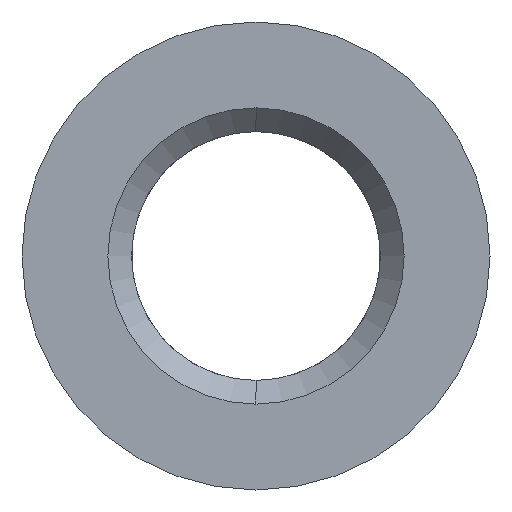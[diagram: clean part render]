
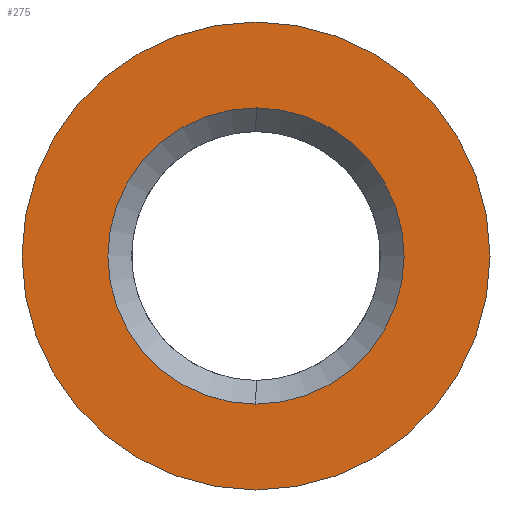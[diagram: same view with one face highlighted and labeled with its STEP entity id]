
A CAD part, left-side view. The second image highlights one B-rep face of the part: STEP entity #275.
In plain terms, the highlighted planar face has unit normal (-1, 0, 0).
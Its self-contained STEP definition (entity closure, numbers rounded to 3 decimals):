
#6 = DIRECTION ( 'NONE',  ( 1., 0., 0. ) ) ;
#14 = CARTESIAN_POINT ( 'NONE',  ( -9.4, 0., -3.95 ) ) ;
#18 = ORIENTED_EDGE ( 'NONE', *, *, #283, .T. ) ;
#57 = AXIS2_PLACEMENT_3D ( 'NONE', #359, #693, #364 ) ;
#71 = CARTESIAN_POINT ( 'NONE',  ( -9.4, 0., 0. ) ) ;
#84 = PLANE ( 'NONE',  #435 ) ;
#85 = EDGE_CURVE ( 'NONE', #572, #216, #241, .T. ) ;
#135 = AXIS2_PLACEMENT_3D ( 'NONE', #352, #619, #341 ) ;
#143 = CARTESIAN_POINT ( 'NONE',  ( -9.4, 0., -2.5 ) ) ;
#163 = CARTESIAN_POINT ( 'NONE',  ( -9.4, 0., 0. ) ) ;
#173 = VERTEX_POINT ( 'NONE', #14 ) ;
#192 = DIRECTION ( 'NONE',  ( 0., 0., 1. ) ) ;
#215 = DIRECTION ( 'NONE',  ( -1., 0., 0. ) ) ;
#216 = VERTEX_POINT ( 'NONE', #143 ) ;
#220 = FACE_BOUND ( 'NONE', #304, .T. ) ;
#241 = CIRCLE ( 'NONE', #570, 2.5 ) ;
#275 = ADVANCED_FACE ( 'NONE', ( #220, #809 ), #84, .T. ) ;
#283 = EDGE_CURVE ( 'NONE', #498, #173, #289, .T. ) ;
#289 = CIRCLE ( 'NONE', #135, 3.95 ) ;
#298 = CARTESIAN_POINT ( 'NONE',  ( -9.4, 0., 2.5 ) ) ;
#303 = DIRECTION ( 'NONE',  ( -1., 0., 0. ) ) ;
#304 = EDGE_LOOP ( 'NONE', ( #371, #635 ) ) ;
#311 = ORIENTED_EDGE ( 'NONE', *, *, #369, .T. ) ;
#341 = DIRECTION ( 'NONE',  ( 0., 0., 1. ) ) ;
#352 = CARTESIAN_POINT ( 'NONE',  ( -9.4, 0., 0. ) ) ;
#359 = CARTESIAN_POINT ( 'NONE',  ( -9.4, 0., 0. ) ) ;
#364 = DIRECTION ( 'NONE',  ( 0., 0., 1. ) ) ;
#369 = EDGE_CURVE ( 'NONE', #173, #498, #612, .T. ) ;
#371 = ORIENTED_EDGE ( 'NONE', *, *, #85, .T. ) ;
#385 = EDGE_CURVE ( 'NONE', #216, #572, #424, .T. ) ;
#424 = CIRCLE ( 'NONE', #57, 2.5 ) ;
#435 = AXIS2_PLACEMENT_3D ( 'NONE', #744, #215, #471 ) ;
#471 = DIRECTION ( 'NONE',  ( 0., 0., 1. ) ) ;
#498 = VERTEX_POINT ( 'NONE', #842 ) ;
#570 = AXIS2_PLACEMENT_3D ( 'NONE', #71, #6, #192 ) ;
#572 = VERTEX_POINT ( 'NONE', #298 ) ;
#612 = CIRCLE ( 'NONE', #803, 3.95 ) ;
#619 = DIRECTION ( 'NONE',  ( -1., 0., 0. ) ) ;
#622 = DIRECTION ( 'NONE',  ( 0., 0., 1. ) ) ;
#635 = ORIENTED_EDGE ( 'NONE', *, *, #385, .T. ) ;
#693 = DIRECTION ( 'NONE',  ( 1., 0., 0. ) ) ;
#744 = CARTESIAN_POINT ( 'NONE',  ( -9.4, 2.1, 0. ) ) ;
#803 = AXIS2_PLACEMENT_3D ( 'NONE', #163, #303, #622 ) ;
#809 = FACE_OUTER_BOUND ( 'NONE', #814, .T. ) ;
#814 = EDGE_LOOP ( 'NONE', ( #18, #311 ) ) ;
#842 = CARTESIAN_POINT ( 'NONE',  ( -9.4, 0., 3.95 ) ) ;
